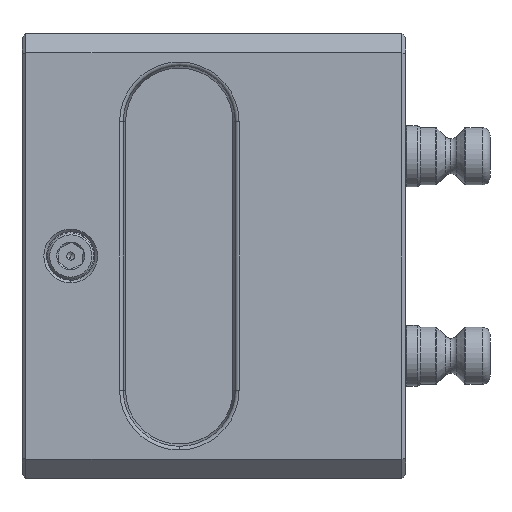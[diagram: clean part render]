
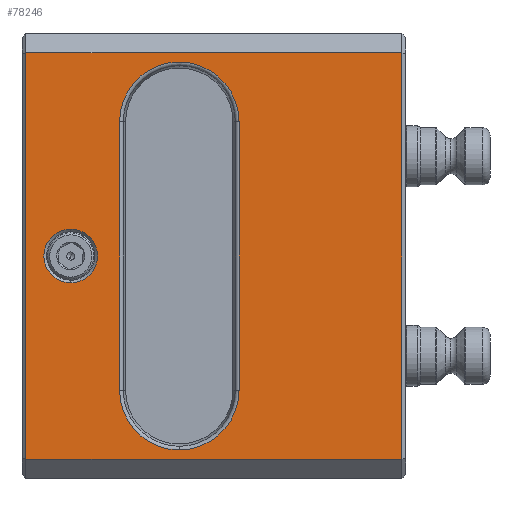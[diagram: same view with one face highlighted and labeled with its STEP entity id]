
A CAD part, left-side view. The second image highlights one B-rep face of the part: STEP entity #78246.
In plain terms, the highlighted planar face has unit normal (-1, 0, 0).
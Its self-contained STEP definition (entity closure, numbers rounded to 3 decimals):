
#71919=DIRECTION('',(0.,-1.,0.));
#71920=VECTOR('',#71919,98.);
#71921=CARTESIAN_POINT('',(-75.,99.,53.));
#71922=LINE('',#71921,#71920);
#71927=CARTESIAN_POINT('',(-75.,87.3,0.));
#71928=DIRECTION('',(1.,0.,0.));
#71929=DIRECTION('',(0.,0.,1.));
#71930=AXIS2_PLACEMENT_3D('',#71927,#71928,#71929);
#71932=CARTESIAN_POINT('',(-75.,87.3,0.));
#71933=DIRECTION('',(1.,0.,0.));
#71934=DIRECTION('',(0.,0.,-1.));
#71935=AXIS2_PLACEMENT_3D('',#71932,#71933,#71934);
#71937=CARTESIAN_POINT('',(-75.,59.,35.));
#71938=DIRECTION('',(1.,0.,0.));
#71939=DIRECTION('',(0.,0.,1.));
#71940=AXIS2_PLACEMENT_3D('',#71937,#71938,#71939);
#71942=CARTESIAN_POINT('',(-75.,59.,35.));
#71943=DIRECTION('',(1.,0.,0.));
#71944=DIRECTION('',(0.,1.,0.));
#71945=AXIS2_PLACEMENT_3D('',#71942,#71943,#71944);
#71947=CARTESIAN_POINT('',(-75.,59.,-35.));
#71948=DIRECTION('',(1.,0.,0.));
#71949=DIRECTION('',(0.,0.,-1.));
#71950=AXIS2_PLACEMENT_3D('',#71947,#71948,#71949);
#71952=CARTESIAN_POINT('',(-75.,59.,-35.));
#71953=DIRECTION('',(1.,0.,0.));
#71954=DIRECTION('',(0.,-1.,0.));
#71955=AXIS2_PLACEMENT_3D('',#71952,#71953,#71954);
#71961=DIRECTION('',(0.,1.,0.));
#71962=VECTOR('',#71961,98.);
#71963=CARTESIAN_POINT('',(-75.,1.,-53.));
#71964=LINE('',#71963,#71962);
#72063=DIRECTION('',(0.,0.,1.));
#72064=VECTOR('',#72063,106.);
#72065=CARTESIAN_POINT('',(-75.,99.,-53.));
#72066=LINE('',#72065,#72064);
#73571=DIRECTION('',(0.,0.,-1.));
#73572=VECTOR('',#73571,106.);
#73573=CARTESIAN_POINT('',(-75.,1.,53.));
#73574=LINE('',#73573,#73572);
#74527=DIRECTION('',(0.,0.,1.));
#74528=VECTOR('',#74527,70.);
#74529=CARTESIAN_POINT('',(-75.,43.429,-35.));
#74530=LINE('',#74529,#74528);
#74559=DIRECTION('',(0.,0.,-1.));
#74560=VECTOR('',#74559,70.);
#74561=CARTESIAN_POINT('',(-75.,74.571,35.));
#74562=LINE('',#74561,#74560);
#76871=CARTESIAN_POINT('',(-75.,74.571,35.));
#76872=CARTESIAN_POINT('',(-75.,74.571,-35.));
#76873=VERTEX_POINT('',#76871);
#76874=VERTEX_POINT('',#76872);
#76890=CARTESIAN_POINT('',(-75.,99.,-53.));
#76892=VERTEX_POINT('',#76890);
#76990=CARTESIAN_POINT('',(-75.,59.,-50.571));
#76991=VERTEX_POINT('',#76990);
#77080=CARTESIAN_POINT('',(-75.,99.,53.));
#77082=VERTEX_POINT('',#77080);
#77313=CARTESIAN_POINT('',(-75.,43.429,-35.));
#77314=VERTEX_POINT('',#77313);
#77481=CARTESIAN_POINT('',(-75.,1.,53.));
#77483=VERTEX_POINT('',#77481);
#77611=CARTESIAN_POINT('',(-75.,1.,-53.));
#77613=VERTEX_POINT('',#77611);
#77737=CARTESIAN_POINT('',(-75.,43.429,35.));
#77738=VERTEX_POINT('',#77737);
#77786=CARTESIAN_POINT('',(-75.,87.3,-7.));
#77787=VERTEX_POINT('',#77786);
#77822=CARTESIAN_POINT('',(-75.,59.,50.571));
#77823=VERTEX_POINT('',#77822);
#77880=CARTESIAN_POINT('',(-75.,87.3,7.));
#77881=VERTEX_POINT('',#77880);
#78212=CARTESIAN_POINT('',(-75.,100.,58.));
#78213=DIRECTION('',(1.,0.,0.));
#78214=DIRECTION('',(0.,0.,-1.));
#78215=AXIS2_PLACEMENT_3D('',#78212,#78213,#78214);
#78216=PLANE('',#78215);
#78218=ORIENTED_EDGE('',*,*,#78217,.T.);
#78220=ORIENTED_EDGE('',*,*,#78219,.T.);
#78221=ORIENTED_EDGE('',*,*,#78202,.T.);
#78223=ORIENTED_EDGE('',*,*,#78222,.T.);
#78224=EDGE_LOOP('',(#78218,#78220,#78221,#78223));
#78225=FACE_OUTER_BOUND('',#78224,.F.);
#78227=ORIENTED_EDGE('',*,*,#78226,.F.);
#78229=ORIENTED_EDGE('',*,*,#78228,.F.);
#78230=EDGE_LOOP('',(#78227,#78229));
#78231=FACE_BOUND('',#78230,.F.);
#78233=ORIENTED_EDGE('',*,*,#78232,.T.);
#78235=ORIENTED_EDGE('',*,*,#78234,.F.);
#78237=ORIENTED_EDGE('',*,*,#78236,.F.);
#78239=ORIENTED_EDGE('',*,*,#78238,.T.);
#78241=ORIENTED_EDGE('',*,*,#78240,.F.);
#78243=ORIENTED_EDGE('',*,*,#78242,.F.);
#78244=EDGE_LOOP('',(#78233,#78235,#78237,#78239,#78241,#78243));
#78245=FACE_BOUND('',#78244,.F.);
#78246=ADVANCED_FACE('',(#78225,#78231,#78245),#78216,.F.);
#71931=CIRCLE('',#71930,7.);
#71936=CIRCLE('',#71935,7.);
#71941=CIRCLE('',#71940,15.571);
#71946=CIRCLE('',#71945,15.571);
#71951=CIRCLE('',#71950,15.571);
#71956=CIRCLE('',#71955,15.571);
#78202=EDGE_CURVE('',#77082,#77483,#71922,.T.);
#78217=EDGE_CURVE('',#77613,#76892,#71964,.T.);
#78219=EDGE_CURVE('',#76892,#77082,#72066,.T.);
#78222=EDGE_CURVE('',#77483,#77613,#73574,.T.);
#78226=EDGE_CURVE('',#77881,#77787,#71931,.T.);
#78228=EDGE_CURVE('',#77787,#77881,#71936,.T.);
#78232=EDGE_CURVE('',#77314,#77738,#74530,.T.);
#78234=EDGE_CURVE('',#77823,#77738,#71941,.T.);
#78236=EDGE_CURVE('',#76873,#77823,#71946,.T.);
#78238=EDGE_CURVE('',#76873,#76874,#74562,.T.);
#78240=EDGE_CURVE('',#76991,#76874,#71951,.T.);
#78242=EDGE_CURVE('',#77314,#76991,#71956,.T.);
